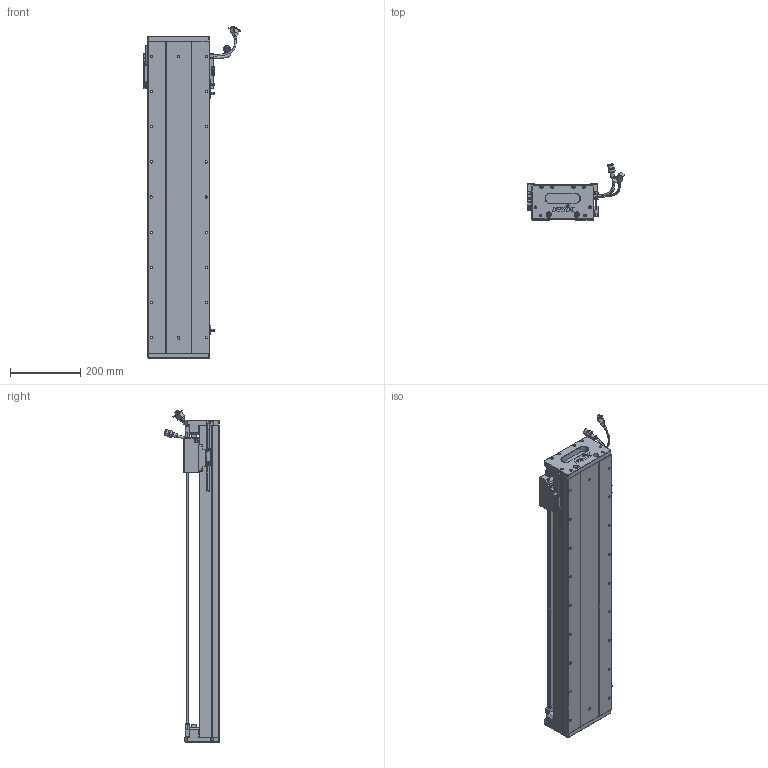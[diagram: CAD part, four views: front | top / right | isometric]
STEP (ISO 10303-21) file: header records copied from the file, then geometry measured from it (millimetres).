
FILE_DESCRIPTION (( 'STEP AP203' ), '1' );
FILE_NAME ('Z1-RY170D-1-L500-B-K.SLDASM_0700.step', '2021-05-17T08:51:52', ( '盈信电脑' ), ( '东莞市道滘镇水果街19号' ), 'SwSTEP 2.0', 'SolidWorks 2016', '' );
FILE_SCHEMA (( 'CONFIG_CONTROL_DESIGN' ));
Length unit declared in the file: millimetre
Products named in the file (36): SCREW-M1.6-1; 覜茼ん672; SCREW-M1.7-1; Z1-RY170臏賑輸(21遴); Z-170詩湍傷裔啣; 140雄赽晤鎢ん堤盄; Z-RY170詩湍奻揤裔; PSLH080_PSLF2; SCREW-M1.7; SCALE-Part-2; HARNESS-Part-1; LABEL-Part-1; RY170直线电机感应器672光电感应片; COVER-Part-1; SCREW-M1.6-2; 170-Z-臏賑輸盄裔(21遴); PBU_SHEET; 140蚥薯蝶輸; SCREW-M1.6; Z1-RY170-L500耀郪菁釱_0700; Z-RY170詩湍狟揤裔; Z1-RY170D-1-L500-B-K.SLDASM_0700; SCREW-M1.6-3; SEAL-Part-1; SCALE-Part-1; HARNESS-Part-2; COVER; 080黍杅芛假蚾釱21遴; LABEL; 榋妏寠巭燃_暯_M2_2; SHIELDPLATE; SEAL; HARNESS; SCALE; Z1-RY170-L500詩湍145mm遵_0700; HOLDER0
Assembly tree (41 placements, depth 4):
  Z1-RY170D-1-L500-B-K.SLDASM_0700
    Z1-RY170-L500耀郪菁釱_0700
    RY170直线电机感应器672光电感应片
    Z1-RY170臏賑輸(21遴)
    覜茼ん672  x3
    PSLH080_PSLF2
      SCALE
        SCALE-Part-1
        SCALE-Part-2
      HARNESS
        HARNESS-Part-1
        HARNESS-Part-2
      LABEL
        LABEL-Part-1
      COVER
        COVER-Part-1
      SEAL
        SEAL-Part-1
      榋妏寠巭燃_暯_M2_2
      SHIELDPLATE
      SCREW-M1.7
      SCREW-M1.7-1
      PBU_SHEET
      SCREW-M1.6
      SCREW-M1.6-1
      SCREW-M1.6-2
      SCREW-M1.6-3
      HOLDER0
    080黍杅芛假蚾釱21遴
    Z1-RY170-L500詩湍145mm遵_0700
    Z-170詩湍傷裔啣  x2
    Z-RY170詩湍奻揤裔  x2
    Z-RY170詩湍狟揤裔  x2
    140蚥薯蝶輸  x2
    170-Z-臏賑輸盄裔(21遴)
    140雄赽晤鎢ん堤盄
Bounding box: 275.34 x 158.11 x 943.73 mm (x, y, z)
Volume: 5193261 mm3; surface area: 1285550.8 mm2
Topology: 36 solids, 36 shells, 2846 faces, 7581 edges, 4777 vertices
Faces by surface type: cylinder 1264, plane 1128, cone 332, torus 69, bspline 53
Entity records: 82325 total; most frequent: CARTESIAN_POINT 20730, ORIENTED_EDGE 12070, DIRECTION 11947, EDGE_CURVE 6035, AXIS2_PLACEMENT_3D 4344, VERTEX_POINT 3895, LINE 3259, VECTOR 3259
